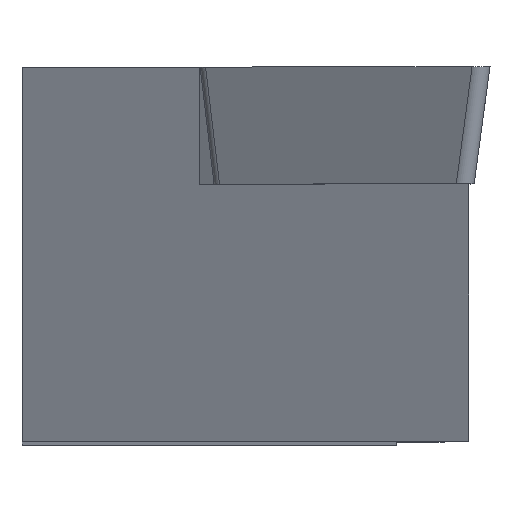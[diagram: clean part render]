
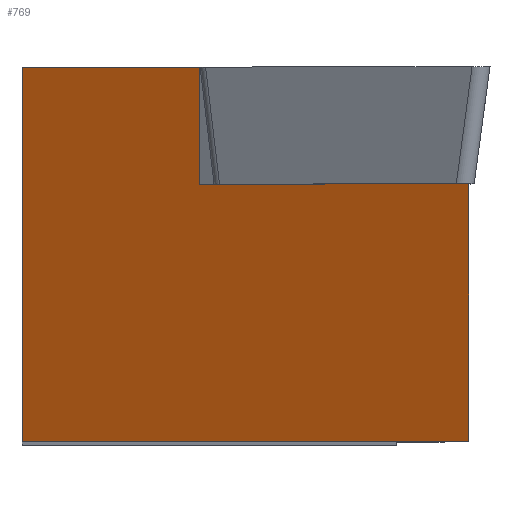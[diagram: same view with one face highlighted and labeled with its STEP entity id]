
A CAD part, top view. The second image highlights one B-rep face of the part: STEP entity #769.
In plain terms, the highlighted planar face has unit normal (-0.53, 0, 0.848).
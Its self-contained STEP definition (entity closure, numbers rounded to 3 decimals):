
#18 = CARTESIAN_POINT ( 'NONE',  ( 8.172, 2.38, -0.349 ) ) ;
#42 = EDGE_CURVE ( 'NONE', #153, #606, #874, .T. ) ;
#119 = VERTEX_POINT ( 'NONE', #463 ) ;
#124 = VECTOR ( 'NONE', #740, 1000. ) ;
#136 = DIRECTION ( 'NONE',  ( 0., -1., 0. ) ) ;
#153 = VERTEX_POINT ( 'NONE', #553 ) ;
#160 = VERTEX_POINT ( 'NONE', #1072 ) ;
#168 = VERTEX_POINT ( 'NONE', #831 ) ;
#173 = LINE ( 'NONE', #904, #686 ) ;
#183 = DIRECTION ( 'NONE',  ( -0.848, 0., -0.53 ) ) ;
#228 = CARTESIAN_POINT ( 'NONE',  ( -19.293, 6.35, -17.511 ) ) ;
#242 = DIRECTION ( 'NONE',  ( 0.848, 0., 0.53 ) ) ;
#262 = PLANE ( 'NONE',  #271 ) ;
#271 = AXIS2_PLACEMENT_3D ( 'NONE', #1048, #531, #183 ) ;
#274 = ORIENTED_EDGE ( 'NONE', *, *, #276, .T. ) ;
#276 = EDGE_CURVE ( 'NONE', #328, #606, #635, .T. ) ;
#315 = EDGE_CURVE ( 'NONE', #153, #119, #173, .T. ) ;
#328 = VERTEX_POINT ( 'NONE', #936 ) ;
#377 = LINE ( 'NONE', #18, #987 ) ;
#437 = EDGE_CURVE ( 'NONE', #160, #328, #808, .T. ) ;
#463 = CARTESIAN_POINT ( 'NONE',  ( 7.219, 2.38, -0.944 ) ) ;
#472 = CARTESIAN_POINT ( 'NONE',  ( -19.293, -6.35, -17.511 ) ) ;
#476 = DIRECTION ( 'NONE',  ( 0., -1., 0. ) ) ;
#478 = ORIENTED_EDGE ( 'NONE', *, *, #42, .F. ) ;
#491 = CARTESIAN_POINT ( 'NONE',  ( -1.928, 4.28, -6.66 ) ) ;
#511 = DIRECTION ( 'NONE',  ( 0., 1., 0. ) ) ;
#531 = DIRECTION ( 'NONE',  ( 0.53, 0., -0.848 ) ) ;
#551 = VECTOR ( 'NONE', #136, 1000. ) ;
#553 = CARTESIAN_POINT ( 'NONE',  ( 7.219, -6.35, -0.944 ) ) ;
#606 = VERTEX_POINT ( 'NONE', #760 ) ;
#625 = VECTOR ( 'NONE', #721, 1000. ) ;
#633 = EDGE_CURVE ( 'NONE', #168, #119, #377, .T. ) ;
#635 = LINE ( 'NONE', #924, #1083 ) ;
#646 = ORIENTED_EDGE ( 'NONE', *, *, #1019, .F. ) ;
#686 = VECTOR ( 'NONE', #511, 1000. ) ;
#721 = DIRECTION ( 'NONE',  ( -0.848, 0., -0.53 ) ) ;
#740 = DIRECTION ( 'NONE',  ( -0.848, 0., -0.53 ) ) ;
#760 = CARTESIAN_POINT ( 'NONE',  ( -7.938, -6.35, -10.416 ) ) ;
#769 = ADVANCED_FACE ( 'NONE', ( #1060 ), #262, .F. ) ;
#808 = LINE ( 'NONE', #228, #124 ) ;
#831 = CARTESIAN_POINT ( 'NONE',  ( -1.928, 2.38, -6.66 ) ) ;
#867 = ORIENTED_EDGE ( 'NONE', *, *, #315, .T. ) ;
#874 = LINE ( 'NONE', #472, #625 ) ;
#895 = ORIENTED_EDGE ( 'NONE', *, *, #633, .F. ) ;
#904 = CARTESIAN_POINT ( 'NONE',  ( 7.219, -6.35, -0.944 ) ) ;
#924 = CARTESIAN_POINT ( 'NONE',  ( -7.938, 6.35, -10.416 ) ) ;
#936 = CARTESIAN_POINT ( 'NONE',  ( -7.938, 6.35, -10.416 ) ) ;
#968 = ORIENTED_EDGE ( 'NONE', *, *, #437, .T. ) ;
#979 = EDGE_LOOP ( 'NONE', ( #274, #478, #867, #895, #646, #968 ) ) ;
#987 = VECTOR ( 'NONE', #242, 1000. ) ;
#1006 = LINE ( 'NONE', #491, #551 ) ;
#1019 = EDGE_CURVE ( 'NONE', #160, #168, #1006, .T. ) ;
#1048 = CARTESIAN_POINT ( 'NONE',  ( -19.293, -6.35, -17.511 ) ) ;
#1060 = FACE_OUTER_BOUND ( 'NONE', #979, .T. ) ;
#1072 = CARTESIAN_POINT ( 'NONE',  ( -1.928, 6.35, -6.66 ) ) ;
#1083 = VECTOR ( 'NONE', #476, 1000. ) ;
